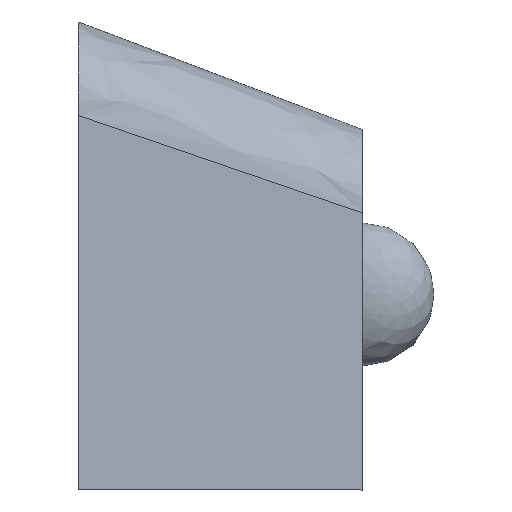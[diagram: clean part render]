
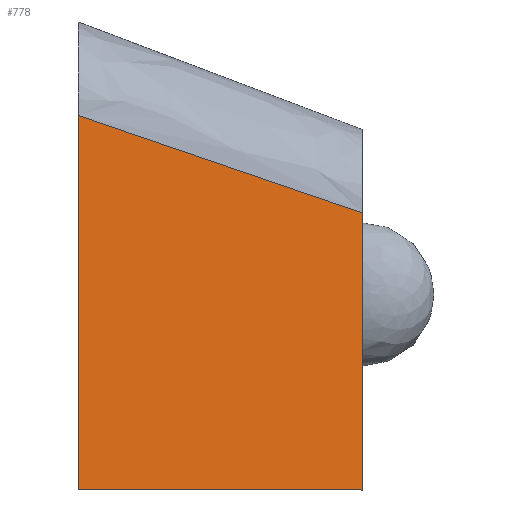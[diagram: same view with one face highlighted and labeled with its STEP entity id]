
A CAD part, left-side view. The second image highlights one B-rep face of the part: STEP entity #778.
In plain terms, the highlighted free-form (B-spline) face has degree [3, 3] with [4, 4] control points.
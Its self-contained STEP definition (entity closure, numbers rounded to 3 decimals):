
#277 = VERTEX_POINT('',#278);
#278 = CARTESIAN_POINT('',(-128.03,-290.,282.443));
#285 = EDGE_CURVE('',#277,#286,#288,.T.);
#286 = VERTEX_POINT('',#287);
#287 = CARTESIAN_POINT('',(-126.919,-290.,-0.021));
#288 = LINE('',#289,#290);
#289 = CARTESIAN_POINT('',(-128.202,-290.,326.146));
#290 = VECTOR('',#291,1.);
#291 = DIRECTION('',(0.004,0.,
    -1.));
#310 = VERTEX_POINT('',#311);
#311 = CARTESIAN_POINT('',(-164.827,0.,
    -0.021));
#317 = EDGE_CURVE('',#310,#318,#320,.T.);
#318 = VERTEX_POINT('',#319);
#319 = CARTESIAN_POINT('',(-166.325,0.,
    381.85));
#320 = LINE('',#321,#322);
#321 = CARTESIAN_POINT('',(-164.827,0.,
    -0.021));
#322 = VECTOR('',#323,1.);
#323 = DIRECTION('',(-0.004,0.,
    1.));
#740 = EDGE_CURVE('',#318,#277,#741,.T.);
#741 = LINE('',#742,#743);
#742 = CARTESIAN_POINT('',(-166.325,0.,
    381.85));
#743 = VECTOR('',#744,1.);
#744 = DIRECTION('',(0.124,-0.939,-0.322));
#778 = ADVANCED_FACE('',(#779),#790,.T.);
#779 = FACE_BOUND('',#780,.T.);
#780 = EDGE_LOOP('',(#781,#782,#783,#784));
#781 = ORIENTED_EDGE('',*,*,#285,.F.);
#782 = ORIENTED_EDGE('',*,*,#740,.F.);
#783 = ORIENTED_EDGE('',*,*,#317,.F.);
#784 = ORIENTED_EDGE('',*,*,#785,.T.);
#785 = EDGE_CURVE('',#310,#286,#786,.T.);
#786 = LINE('',#787,#788);
#787 = CARTESIAN_POINT('',(-164.827,0.,
    -0.021));
#788 = VECTOR('',#789,1.);
#789 = DIRECTION('',(0.13,-0.992,0.)
  );
#790 = B_SPLINE_SURFACE_WITH_KNOTS('',3,3,(
    (#791,#792,#793,#794)
    ,(#795,#796,#797,#798)
    ,(#799,#800,#801,#802)
    ,(#803,#804,#805,#806
    )),.UNSPECIFIED.,.F.,.F.,.F.,(4,4),(4,4),(0.,1.),(0.,1.),
  .PIECEWISE_BEZIER_KNOTS.);
#791 = CARTESIAN_POINT('',(-166.325,0.,
    381.85));
#792 = CARTESIAN_POINT('',(-153.56,-96.667,
    348.714));
#793 = CARTESIAN_POINT('',(-140.795,-193.333,
    315.579));
#794 = CARTESIAN_POINT('',(-128.03,-290.,282.443));
#795 = CARTESIAN_POINT('',(-165.825,0.,
    254.56));
#796 = CARTESIAN_POINT('',(-153.103,-96.667,
    232.469));
#797 = CARTESIAN_POINT('',(-140.382,-193.333,
    210.379));
#798 = CARTESIAN_POINT('',(-127.66,-290.,188.289));
#799 = CARTESIAN_POINT('',(-165.326,0.,
    127.27));
#800 = CARTESIAN_POINT('',(-152.647,-96.667,
    116.224));
#801 = CARTESIAN_POINT('',(-139.968,-193.333,
    105.179));
#802 = CARTESIAN_POINT('',(-127.289,-290.,94.134));
#803 = CARTESIAN_POINT('',(-164.827,0.,
    -0.021));
#804 = CARTESIAN_POINT('',(-152.191,-96.667,
    -0.021));
#805 = CARTESIAN_POINT('',(-139.555,-193.333,
    -0.021));
#806 = CARTESIAN_POINT('',(-126.919,-290.,-0.021));
